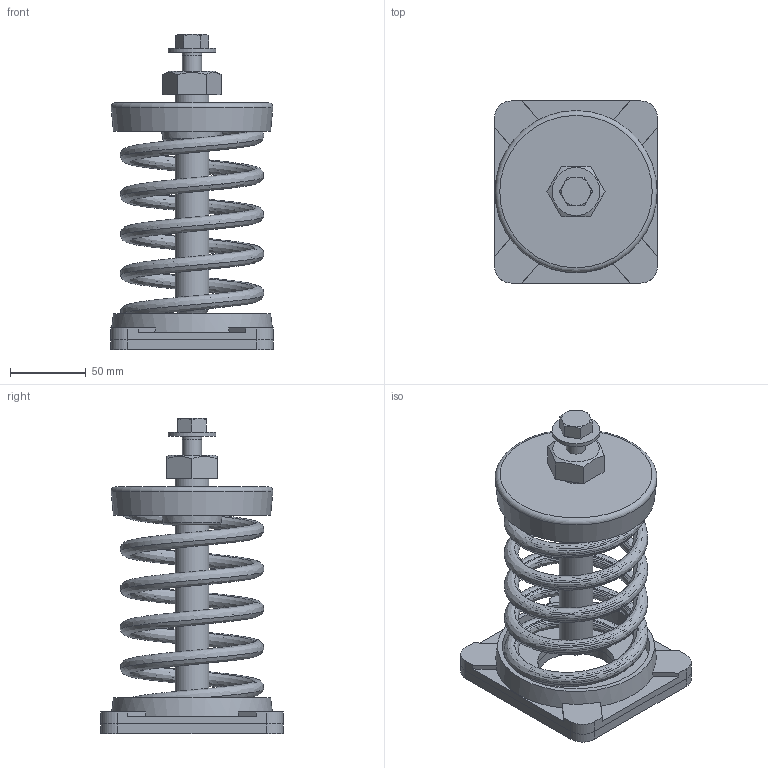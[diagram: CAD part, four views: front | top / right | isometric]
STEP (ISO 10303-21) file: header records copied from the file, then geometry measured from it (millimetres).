
FILE_DESCRIPTION(/* description */ (''),/* implementation_level */ '2;1');
FILE_NAME(/* name */ 'C:\001_Work\Designs\SLF ASSEMBLIES\SLF-104.stp',/* time_stamp */ '2016-01-10T14:48:24-05:00',/* author */ ('rramoutar'),/* organization */ ('Mason Industries Inc.'),/* preprocessor_version */ 'ST-DEVELOPER v15.6',/* originating_system */ 'Autodesk Inventor 2015',/* authorisation */ '');
FILE_SCHEMA (('CONFIG_CONTROL_DESIGN'));
Length unit declared in the file: inch
Products named in the file (1): SLF-104
Bounding box: 107.95 x 120.65 x 208.64 mm (x, y, z)
Volume: 337087.3 mm3; surface area: 190355.5 mm2
Topology: 7 solids, 7 shells, 232 faces, 587 edges, 388 vertices
Faces by surface type: plane 156, bspline 30, cylinder 29, cone 14, torus 3
Full cylindrical faces by diameter (mm): 9.525 x8, 12.7 x2, 13.487 x1, 19.05 x1, 22.225 x2, 31.75 x1, 50.8 x2, 97.631 x2
Entity records: 15667 total; most frequent: CARTESIAN_POINT 10157, ORIENTED_EDGE 1088, DIRECTION 951, EDGE_CURVE 544, VERTEX_POINT 375, LINE 363, VECTOR 363, EDGE_LOOP 299
